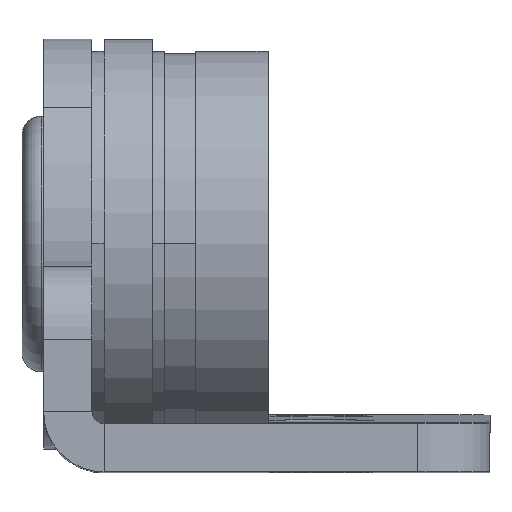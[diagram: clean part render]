
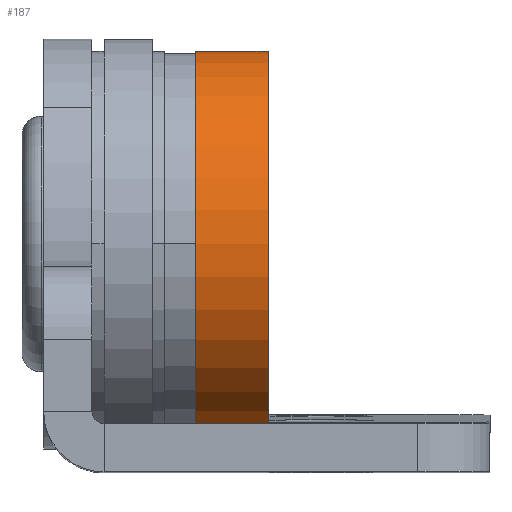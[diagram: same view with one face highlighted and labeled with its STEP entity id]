
A CAD part, top view. The second image highlights one B-rep face of the part: STEP entity #187.
In plain terms, the highlighted cylindrical face has radius 8 mm (diameter 16 mm), a partial arc.
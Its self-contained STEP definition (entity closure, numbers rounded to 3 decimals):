
#118 = EDGE_CURVE ( 'NONE', #2028, #2029, #2088, .T. ) ;
#119 = EDGE_CURVE ( 'NONE', #2027, #2028, #3094, .T. ) ;
#120 = EDGE_CURVE ( 'NONE', #2030, #2029, #3081, .T. ) ;
#121 = EDGE_CURVE ( 'NONE', #2027, #2030, #2089, .T. ) ;
#187 = ADVANCED_FACE ( 'NONE', ( #2204 ), #2205, .T. ) ;
#540 = ORIENTED_EDGE ( 'NONE', *, *, #119, .T. ) ;
#541 = ORIENTED_EDGE ( 'NONE', *, *, #120, .F. ) ;
#542 = ORIENTED_EDGE ( 'NONE', *, *, #118, .T. ) ;
#543 = ORIENTED_EDGE ( 'NONE', *, *, #121, .F. ) ;
#637 = EDGE_LOOP ( 'NONE', ( #540, #542, #541, #543 ) ) ;
#1115 = CARTESIAN_POINT ( 'NONE',  ( -1.239, 8., 0. ) ) ;
#1116 = DIRECTION ( 'NONE',  ( -1., 0., 0. ) ) ;
#1117 = CARTESIAN_POINT ( 'NONE',  ( 3., 0., 0. ) ) ;
#1118 = DIRECTION ( 'NONE',  ( -1., 0., 0. ) ) ;
#1119 = DIRECTION ( 'NONE',  ( 0., -1., 0. ) ) ;
#1120 = CARTESIAN_POINT ( 'NONE',  ( 0., 0., 0. ) ) ;
#1121 = DIRECTION ( 'NONE',  ( -1., 0., 0. ) ) ;
#1122 = DIRECTION ( 'NONE',  ( 0., -1., 0. ) ) ;
#1123 = CARTESIAN_POINT ( 'NONE',  ( -1.239, -8., 0. ) ) ;
#1124 = DIRECTION ( 'NONE',  ( -1., 0., 0. ) ) ;
#1380 = CARTESIAN_POINT ( 'NONE',  ( -1.239, 0., 0. ) ) ;
#1381 = DIRECTION ( 'NONE',  ( -1., 0., 0. ) ) ;
#1382 = DIRECTION ( 'NONE',  ( 0., -1., 0. ) ) ;
#1751 = CARTESIAN_POINT ( 'NONE',  ( 3., -8., 0. ) ) ;
#1752 = CARTESIAN_POINT ( 'NONE',  ( 3., 8., 0. ) ) ;
#1753 = CARTESIAN_POINT ( 'NONE',  ( 0., 8., 0. ) ) ;
#1754 = CARTESIAN_POINT ( 'NONE',  ( 0., -8., 0. ) ) ;
#2027 = VERTEX_POINT ( 'NONE', #1751 ) ;
#2028 = VERTEX_POINT ( 'NONE', #1752 ) ;
#2029 = VERTEX_POINT ( 'NONE', #1753 ) ;
#2030 = VERTEX_POINT ( 'NONE', #1754 ) ;
#2088 = LINE ( 'NONE', #1115, #3095 ) ;
#2089 = LINE ( 'NONE', #1123, #2921 ) ;
#2204 = FACE_OUTER_BOUND ( 'NONE', #637, .T. ) ;
#2205 = CYLINDRICAL_SURFACE ( 'NONE', #2594, 8. ) ;
#2594 = AXIS2_PLACEMENT_3D ( 'NONE', #1380, #1381, #1382 ) ;
#2921 = VECTOR ( 'NONE', #1124, 1000. ) ;
#3081 = CIRCLE ( 'NONE', #3098, 8. ) ;
#3094 = CIRCLE ( 'NONE', #3096, 8. ) ;
#3095 = VECTOR ( 'NONE', #1116, 1000. ) ;
#3096 = AXIS2_PLACEMENT_3D ( 'NONE', #1117, #1118, #1119 ) ;
#3098 = AXIS2_PLACEMENT_3D ( 'NONE', #1120, #1121, #1122 ) ;
